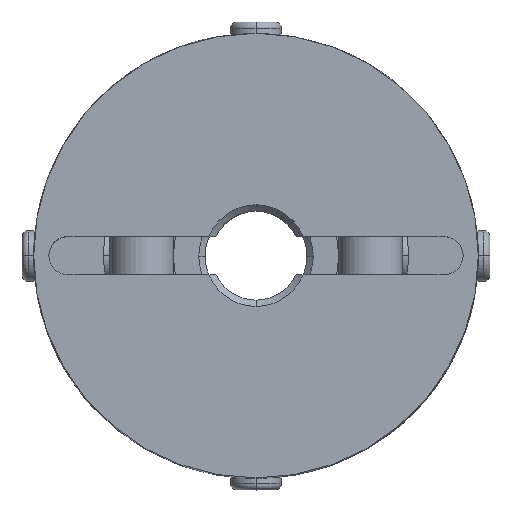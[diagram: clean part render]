
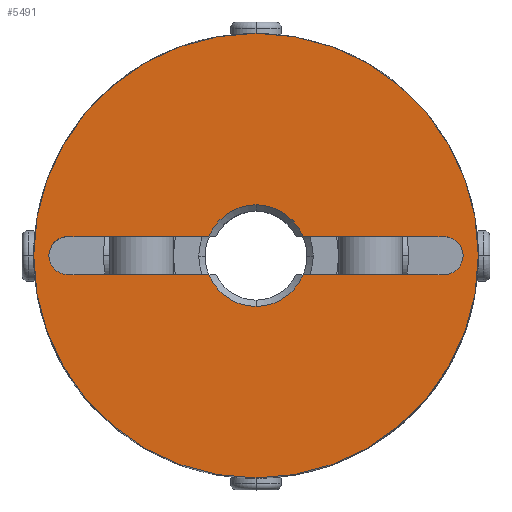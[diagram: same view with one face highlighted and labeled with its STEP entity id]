
A CAD part, top view. The second image highlights one B-rep face of the part: STEP entity #5491.
In plain terms, the highlighted planar face has unit normal (0, 0, 1).
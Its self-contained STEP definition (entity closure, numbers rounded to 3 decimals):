
#981=CARTESIAN_POINT('',(0.,17.5,17.5));
#982=VERTEX_POINT('',#981);
#989=CARTESIAN_POINT('',(0.,-17.5,17.5));
#990=VERTEX_POINT('',#989);
#991=CARTESIAN_POINT('',(0.0,0.0,17.5));
#992=DIRECTION('',(0.0,0.0,-1.0));
#993=DIRECTION('',(0.0,-1.0,0.0));
#994=AXIS2_PLACEMENT_3D('',#991,#992,#993);
#995=CIRCLE('',#994,17.5);
#996=EDGE_CURVE('',#982,#990,#995,.T.);
#1311=CARTESIAN_POINT('',(15.861,1.061,17.5));
#1312=VERTEX_POINT('',#1311);
#1328=CARTESIAN_POINT('',(14.8,-1.5,17.5));
#1329=VERTEX_POINT('',#1328);
#1336=CARTESIAN_POINT('',(14.8,0.,17.5));
#1337=DIRECTION('',(0.0,0.0,1.0));
#1338=DIRECTION('',(0.707,-0.707,0.0));
#1339=AXIS2_PLACEMENT_3D('',#1336,#1337,#1338);
#1340=CIRCLE('',#1339,1.5);
#1341=EDGE_CURVE('',#1329,#1312,#1340,.T.);
#1353=CARTESIAN_POINT('',(-15.861,-1.061,17.5));
#1354=VERTEX_POINT('',#1353);
#1370=CARTESIAN_POINT('',(-14.8,1.5,17.5));
#1371=VERTEX_POINT('',#1370);
#1378=CARTESIAN_POINT('',(-14.8,0.,17.5));
#1379=DIRECTION('',(0.0,0.0,1.0));
#1380=DIRECTION('',(-0.707,0.707,0.0));
#1381=AXIS2_PLACEMENT_3D('',#1378,#1379,#1380);
#1382=CIRCLE('',#1381,1.5);
#1383=EDGE_CURVE('',#1371,#1354,#1382,.T.);
#4396=CARTESIAN_POINT('',(0.,4.,17.5));
#4397=VERTEX_POINT('',#4396);
#4405=CARTESIAN_POINT('',(3.708,1.5,17.5));
#4406=VERTEX_POINT('',#4405);
#4420=CARTESIAN_POINT('',(0.,0.,17.5));
#4421=DIRECTION('',(0.0,0.0,1.0));
#4422=DIRECTION('',(0.0,1.0,0.0));
#4423=AXIS2_PLACEMENT_3D('',#4420,#4421,#4422);
#4424=CIRCLE('',#4423,4.0);
#4425=EDGE_CURVE('',#4406,#4397,#4424,.T.);
#4435=CARTESIAN_POINT('',(0.,-4.,17.5));
#4436=VERTEX_POINT('',#4435);
#4452=CARTESIAN_POINT('',(-3.708,-1.5,17.5));
#4453=VERTEX_POINT('',#4452);
#4467=CARTESIAN_POINT('',(0.,0.,17.5));
#4468=DIRECTION('',(0.0,0.0,1.0));
#4469=DIRECTION('',(0.0,-1.0,0.0));
#4470=AXIS2_PLACEMENT_3D('',#4467,#4468,#4469);
#4471=CIRCLE('',#4470,4.0);
#4472=EDGE_CURVE('',#4453,#4436,#4471,.T.);
#5207=CARTESIAN_POINT('',(14.8,1.5,17.5));
#5208=VERTEX_POINT('',#5207);
#5215=CARTESIAN_POINT('',(3.708,1.5,17.5));
#5216=DIRECTION('',(1.0,0.0,0.0));
#5217=VECTOR('',#5216,11.092);
#5218=LINE('',#5215,#5217);
#5219=EDGE_CURVE('',#4406,#5208,#5218,.T.);
#5376=CARTESIAN_POINT('',(3.708,-1.5,17.5));
#5377=VERTEX_POINT('',#5376);
#5391=CARTESIAN_POINT('',(14.8,-1.5,17.5));
#5392=DIRECTION('',(-1.0,0.0,0.0));
#5393=VECTOR('',#5392,11.092);
#5394=LINE('',#5391,#5393);
#5395=EDGE_CURVE('',#1329,#5377,#5394,.T.);
#5418=CARTESIAN_POINT('',(0.,0.,17.5));
#5419=DIRECTION('',(0.0,0.0,1.0));
#5420=DIRECTION('',(0.0,-1.0,0.0));
#5421=AXIS2_PLACEMENT_3D('',#5418,#5419,#5420);
#5422=CIRCLE('',#5421,4.0);
#5423=EDGE_CURVE('',#4436,#5377,#5422,.T.);
#5430=CARTESIAN_POINT('',(0.,-1.591,17.5));
#5431=DIRECTION('',(0.0,0.0,1.0));
#5432=DIRECTION('',(0.0,-1.0,0.0));
#5433=AXIS2_PLACEMENT_3D('',#5430,#5431,#5432);
#5434=PLANE('',#5433);
#5435=CARTESIAN_POINT('',(0.0,0.0,17.5));
#5436=DIRECTION('',(0.0,0.0,-1.0));
#5437=DIRECTION('',(0.0,-1.0,0.0));
#5438=AXIS2_PLACEMENT_3D('',#5435,#5436,#5437);
#5439=CIRCLE('',#5438,17.5);
#5440=EDGE_CURVE('',#990,#982,#5439,.T.);
#5441=ORIENTED_EDGE('',*,*,#5440,.F.);
#5442=ORIENTED_EDGE('',*,*,#996,.F.);
#5443=EDGE_LOOP('',(#5441,#5442));
#5444=FACE_OUTER_BOUND('',#5443,.T.);
#5445=ORIENTED_EDGE('',*,*,#4472,.F.);
#5446=CARTESIAN_POINT('',(-14.8,-1.5,17.5));
#5447=VERTEX_POINT('',#5446);
#5448=CARTESIAN_POINT('',(-3.708,-1.5,17.5));
#5449=DIRECTION('',(-1.0,0.0,0.0));
#5450=VECTOR('',#5449,11.092);
#5451=LINE('',#5448,#5450);
#5452=EDGE_CURVE('',#4453,#5447,#5451,.T.);
#5453=ORIENTED_EDGE('',*,*,#5452,.T.);
#5454=CARTESIAN_POINT('',(-14.8,0.,17.5));
#5455=DIRECTION('',(0.0,0.0,1.0));
#5456=DIRECTION('',(-0.707,0.707,0.0));
#5457=AXIS2_PLACEMENT_3D('',#5454,#5455,#5456);
#5458=CIRCLE('',#5457,1.5);
#5459=EDGE_CURVE('',#1354,#5447,#5458,.T.);
#5460=ORIENTED_EDGE('',*,*,#5459,.F.);
#5461=ORIENTED_EDGE('',*,*,#1383,.F.);
#5462=CARTESIAN_POINT('',(-3.708,1.5,17.5));
#5463=VERTEX_POINT('',#5462);
#5464=CARTESIAN_POINT('',(-14.8,1.5,17.5));
#5465=DIRECTION('',(1.0,0.0,0.0));
#5466=VECTOR('',#5465,11.092);
#5467=LINE('',#5464,#5466);
#5468=EDGE_CURVE('',#1371,#5463,#5467,.T.);
#5469=ORIENTED_EDGE('',*,*,#5468,.T.);
#5470=CARTESIAN_POINT('',(0.,0.,17.5));
#5471=DIRECTION('',(0.0,0.0,1.0));
#5472=DIRECTION('',(0.0,1.0,0.0));
#5473=AXIS2_PLACEMENT_3D('',#5470,#5471,#5472);
#5474=CIRCLE('',#5473,4.0);
#5475=EDGE_CURVE('',#4397,#5463,#5474,.T.);
#5476=ORIENTED_EDGE('',*,*,#5475,.F.);
#5477=ORIENTED_EDGE('',*,*,#4425,.F.);
#5478=ORIENTED_EDGE('',*,*,#5219,.T.);
#5479=CARTESIAN_POINT('',(14.8,0.,17.5));
#5480=DIRECTION('',(0.0,0.0,1.0));
#5481=DIRECTION('',(0.707,-0.707,0.0));
#5482=AXIS2_PLACEMENT_3D('',#5479,#5480,#5481);
#5483=CIRCLE('',#5482,1.5);
#5484=EDGE_CURVE('',#1312,#5208,#5483,.T.);
#5485=ORIENTED_EDGE('',*,*,#5484,.F.);
#5486=ORIENTED_EDGE('',*,*,#1341,.F.);
#5487=ORIENTED_EDGE('',*,*,#5395,.T.);
#5488=ORIENTED_EDGE('',*,*,#5423,.F.);
#5489=EDGE_LOOP('',(#5445,#5453,#5460,#5461,#5469,#5476,#5477,#5478,#5485,#5486,#5487,#5488));
#5490=FACE_BOUND('',#5489,.T.);
#5491=ADVANCED_FACE('',(#5444,#5490),#5434,.T.);
